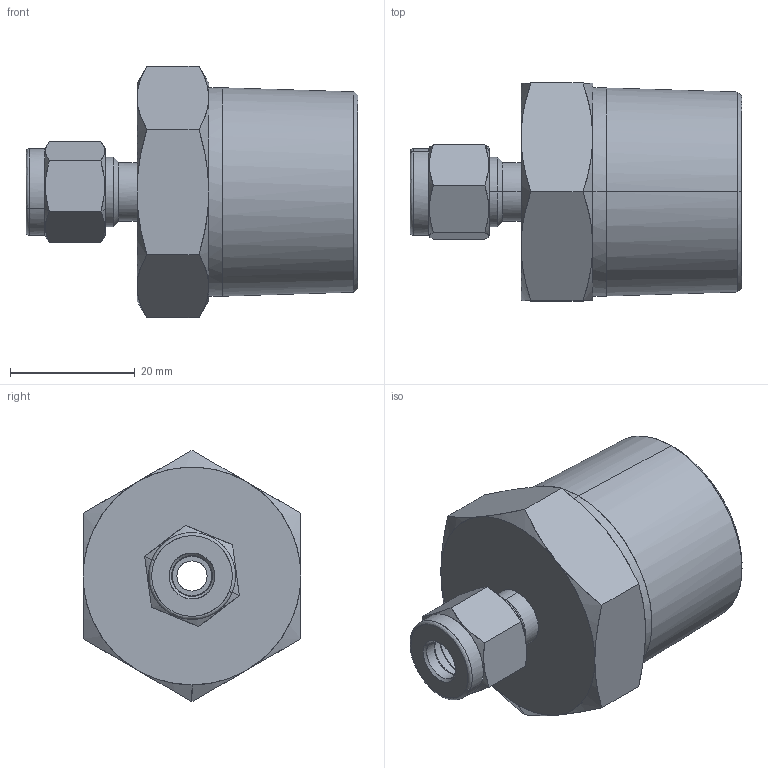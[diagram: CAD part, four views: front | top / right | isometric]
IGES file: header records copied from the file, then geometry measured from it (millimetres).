
Start section: Comment
Global section: file name: SMC4-16R.igs; native system:  By UGS Corp.; preprocessor: XPlus GENERIC/IGES 3.0; author: Author; organization: Title; date: 20100113.145448; units: millimetre
Bounding box: 53.18 x 34.9 x 40.3 mm (x, y, z)
Surface area: 8144 mm2 (no closed solid volume)
Topology: 0 solids, 0 shells, 95 faces, 540 edges, 535 vertices
Faces by surface type: bspline 95
